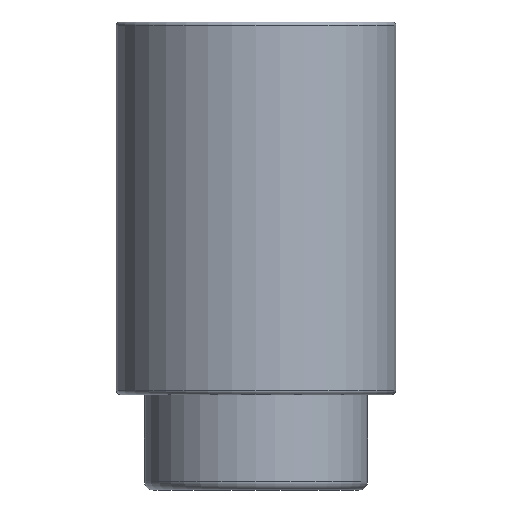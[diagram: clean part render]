
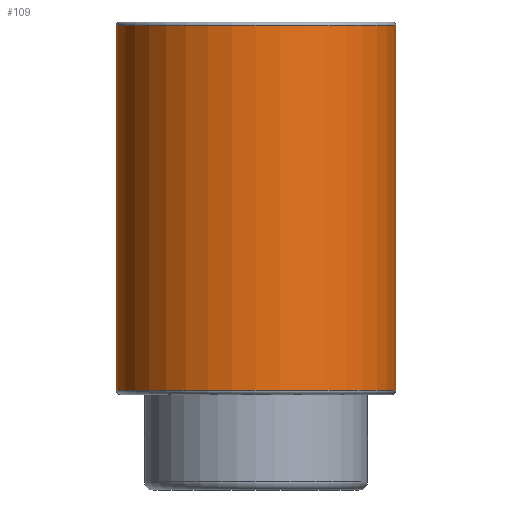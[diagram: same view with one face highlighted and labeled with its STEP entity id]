
A CAD part, front view. The second image highlights one B-rep face of the part: STEP entity #109.
In plain terms, the highlighted cylindrical face has radius 32.25 mm (diameter 64.5 mm), a full revolution.
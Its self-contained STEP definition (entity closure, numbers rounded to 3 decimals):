
#109=ADVANCED_FACE('',(#125,#126),#121,.T.);
#121=CYLINDRICAL_SURFACE('',#223,32.25);
#125=FACE_BOUND('',#143,.T.);
#126=FACE_BOUND('',#144,.T.);
#143=EDGE_LOOP('',(#165));
#144=EDGE_LOOP('',(#166));
#165=ORIENTED_EDGE('',*,*,#198,.T.);
#166=ORIENTED_EDGE('',*,*,#199,.T.);
#187=VERTEX_POINT('',#294);
#188=VERTEX_POINT('',#296);
#198=EDGE_CURVE('',#187,#187,#209,.T.);
#199=EDGE_CURVE('',#188,#188,#210,.T.);
#209=CIRCLE('',#221,32.25);
#210=CIRCLE('',#222,32.25);
#221=AXIS2_PLACEMENT_3D('',#293,#246,#247);
#222=AXIS2_PLACEMENT_3D('',#295,#248,#249);
#223=AXIS2_PLACEMENT_3D('',#297,#250,#251);
#246=DIRECTION('',(0.,0.,-1.));
#247=DIRECTION('',(-1.,0.,0.));
#248=DIRECTION('',(0.,0.,1.));
#249=DIRECTION('',(-1.,0.,0.));
#250=DIRECTION('',(0.,0.,-1.));
#251=DIRECTION('',(-1.,0.,0.));
#293=CARTESIAN_POINT('',(929.5,-38.,-26.15));
#294=CARTESIAN_POINT('',(897.25,-38.,-26.15));
#295=CARTESIAN_POINT('',(929.5,-38.,-110.4));
#296=CARTESIAN_POINT('',(897.25,-38.,-110.4));
#297=CARTESIAN_POINT('',(929.5,-38.,-28.4));
